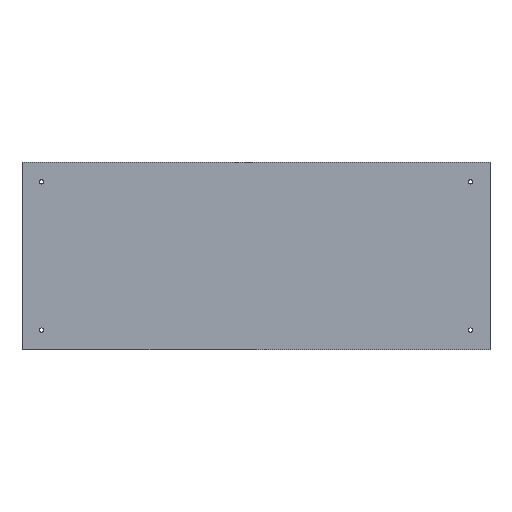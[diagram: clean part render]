
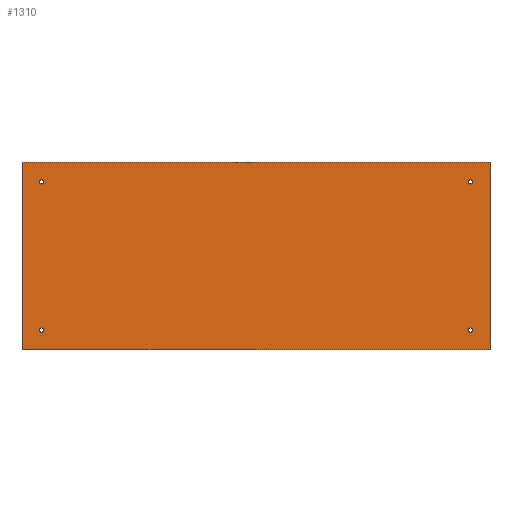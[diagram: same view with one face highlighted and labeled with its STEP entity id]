
A CAD part, top view. The second image highlights one B-rep face of the part: STEP entity #1310.
In plain terms, the highlighted planar face has unit normal (0, 0, 1).
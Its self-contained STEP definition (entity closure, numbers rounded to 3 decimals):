
#454=CARTESIAN_POINT('',(374.052,-187.701,114.5));
#455=VERTEX_POINT('',#454);
#456=CARTESIAN_POINT('',(370.728,-187.701,114.5));
#457=DIRECTION('',(0.0,0.0,-1.0));
#458=DIRECTION('',(1.0,0.0,0.0));
#459=AXIS2_PLACEMENT_3D('',#456,#457,#458);
#460=CIRCLE('',#459,3.324);
#461=EDGE_CURVE('',#455,#455,#460,.T.);
#482=CARTESIAN_POINT('',(-285.948,-187.701,114.5));
#483=VERTEX_POINT('',#482);
#484=CARTESIAN_POINT('',(-289.272,-187.701,114.5));
#485=DIRECTION('',(0.0,0.0,-1.0));
#486=DIRECTION('',(1.0,0.0,0.0));
#487=AXIS2_PLACEMENT_3D('',#484,#485,#486);
#488=CIRCLE('',#487,3.324);
#489=EDGE_CURVE('',#483,#483,#488,.T.);
#510=CARTESIAN_POINT('',(374.052,40.299,114.5));
#511=VERTEX_POINT('',#510);
#512=CARTESIAN_POINT('',(370.728,40.299,114.5));
#513=DIRECTION('',(0.0,0.0,-1.0));
#514=DIRECTION('',(1.0,0.0,0.0));
#515=AXIS2_PLACEMENT_3D('',#512,#513,#514);
#516=CIRCLE('',#515,3.324);
#517=EDGE_CURVE('',#511,#511,#516,.T.);
#538=CARTESIAN_POINT('',(-285.948,40.299,114.5));
#539=VERTEX_POINT('',#538);
#540=CARTESIAN_POINT('',(-289.272,40.299,114.5));
#541=DIRECTION('',(0.0,0.0,-1.0));
#542=DIRECTION('',(1.0,0.0,0.0));
#543=AXIS2_PLACEMENT_3D('',#540,#541,#542);
#544=CIRCLE('',#543,3.324);
#545=EDGE_CURVE('',#539,#539,#544,.T.);
#1220=CARTESIAN_POINT('',(400.728,70.299,114.5));
#1221=VERTEX_POINT('',#1220);
#1222=CARTESIAN_POINT('',(400.728,-217.701,114.5));
#1223=VERTEX_POINT('',#1222);
#1224=CARTESIAN_POINT('',(400.728,70.299,114.5));
#1225=DIRECTION('',(0.0,-1.0,0.0));
#1226=VECTOR('',#1225,288.);
#1227=LINE('',#1224,#1226);
#1228=EDGE_CURVE('',#1221,#1223,#1227,.T.);
#1251=CARTESIAN_POINT('',(-319.272,-217.701,114.5));
#1252=VERTEX_POINT('',#1251);
#1253=CARTESIAN_POINT('',(-319.272,70.299,114.5));
#1254=VERTEX_POINT('',#1253);
#1255=CARTESIAN_POINT('',(-319.272,-217.701,114.5));
#1256=DIRECTION('',(0.0,1.0,0.0));
#1257=VECTOR('',#1256,288.);
#1258=LINE('',#1255,#1257);
#1259=EDGE_CURVE('',#1252,#1254,#1258,.T.);
#1277=CARTESIAN_POINT('',(40.728,-73.701,114.5));
#1278=DIRECTION('',(0.0,0.0,1.0));
#1279=DIRECTION('',(1.0,0.0,0.0));
#1280=AXIS2_PLACEMENT_3D('',#1277,#1278,#1279);
#1281=PLANE('',#1280);
#1282=ORIENTED_EDGE('',*,*,#1228,.F.);
#1283=CARTESIAN_POINT('',(-319.272,70.299,114.5));
#1284=DIRECTION('',(1.0,0.0,0.0));
#1285=VECTOR('',#1284,720.0);
#1286=LINE('',#1283,#1285);
#1287=EDGE_CURVE('',#1254,#1221,#1286,.T.);
#1288=ORIENTED_EDGE('',*,*,#1287,.F.);
#1289=ORIENTED_EDGE('',*,*,#1259,.F.);
#1290=CARTESIAN_POINT('',(400.728,-217.701,114.5));
#1291=DIRECTION('',(-1.0,0.0,0.0));
#1292=VECTOR('',#1291,720.0);
#1293=LINE('',#1290,#1292);
#1294=EDGE_CURVE('',#1223,#1252,#1293,.T.);
#1295=ORIENTED_EDGE('',*,*,#1294,.F.);
#1296=EDGE_LOOP('',(#1282,#1288,#1289,#1295));
#1297=FACE_OUTER_BOUND('',#1296,.T.);
#1298=ORIENTED_EDGE('',*,*,#461,.T.);
#1299=EDGE_LOOP('',(#1298));
#1300=FACE_BOUND('',#1299,.T.);
#1301=ORIENTED_EDGE('',*,*,#489,.T.);
#1302=EDGE_LOOP('',(#1301));
#1303=FACE_BOUND('',#1302,.T.);
#1304=ORIENTED_EDGE('',*,*,#517,.T.);
#1305=EDGE_LOOP('',(#1304));
#1306=FACE_BOUND('',#1305,.T.);
#1307=ORIENTED_EDGE('',*,*,#545,.T.);
#1308=EDGE_LOOP('',(#1307));
#1309=FACE_BOUND('',#1308,.T.);
#1310=ADVANCED_FACE('',(#1297,#1300,#1303,#1306,#1309),#1281,.T.);
